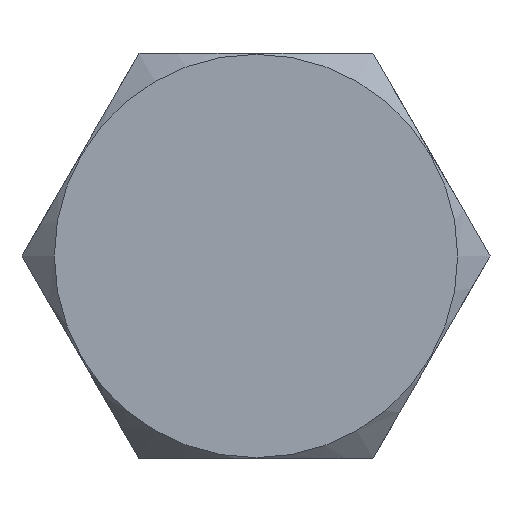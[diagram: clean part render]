
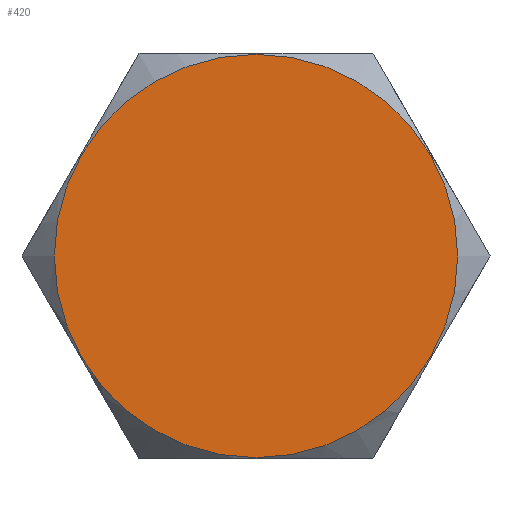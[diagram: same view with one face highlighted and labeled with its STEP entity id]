
A CAD part, front view. The second image highlights one B-rep face of the part: STEP entity #420.
In plain terms, the highlighted planar face has unit normal (0, -1, 0).
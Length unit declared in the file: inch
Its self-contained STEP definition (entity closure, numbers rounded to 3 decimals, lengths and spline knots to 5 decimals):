
#41=PLANE('',#481);
#116=FACE_OUTER_BOUND('',#146,.T.);
#146=EDGE_LOOP('',(#386));
#166=CIRCLE('',#480,0.4975);
#209=VERTEX_POINT('',#793);
#267=EDGE_CURVE('',#209,#209,#166,.T.);
#386=ORIENTED_EDGE('',*,*,#267,.F.);
#420=ADVANCED_FACE('',(#116),#41,.T.);
#480=AXIS2_PLACEMENT_3D('',#794,#593,#594);
#481=AXIS2_PLACEMENT_3D('',#796,#596,#597);
#593=DIRECTION('center_axis',(0.,1.,0.));
#594=DIRECTION('ref_axis',(0.,0.,1.));
#596=DIRECTION('center_axis',(0.,-1.,0.));
#597=DIRECTION('ref_axis',(0.,0.,-1.));
#793=CARTESIAN_POINT('',(0.,0.,-0.4975));
#794=CARTESIAN_POINT('Origin',(0.,0.,0.));
#796=CARTESIAN_POINT('Origin',(0.,0.,0.));
